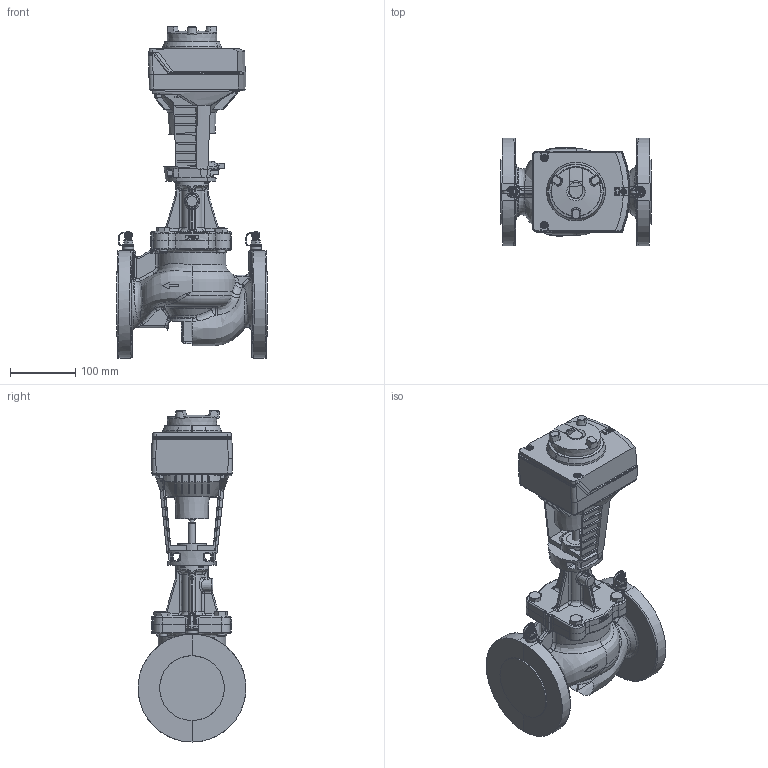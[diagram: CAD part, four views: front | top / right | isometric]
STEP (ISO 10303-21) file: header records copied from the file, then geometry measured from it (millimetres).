
FILE_DESCRIPTION((''),'2;1');
FILE_NAME('C:\Documents and Settings\jjo\Skrivebord\OPTIMA DN50 incl actuator.stp','2012-12-06T11:58:30',('JJO'),(''),'Autodesk Inventor 2012','Autodesk Inventor 2012','');
FILE_SCHEMA(('AUTOMOTIVE_DESIGN { 1 0 10303 214 1 1 1 1 }'));
Length unit declared in the file: millimetre
Products named in the file (1): 53-1200 incl actuator_Shrinkwrap_1
Bounding box: 230 x 164.65 x 507.93 mm (x, y, z)
Surface area: 590448.9 mm2 (no closed solid volume)
Topology: 0 solids, 55 shells, 3260 faces, 8526 edges, 5380 vertices
Faces by surface type: plane 1442, bspline 669, cylinder 654, cone 259, torus 170, sphere 54, revolution 12
Full cylindrical faces by diameter (mm): 2.9 x2, 3.5 x3, 3.8 x1, 5 x3, 6 x1, 7 x1, 8 x2, 8.05 x1, 8.5 x2, 9 x3, 9.728 x2, 10 x4, 10.5 x1, 11 x2, 11.5 x2, 11.7 x2, 12 x5, 12.4 x1, 13.157 x2, 15 x1, 16.04 x2, 16.63 x4, 17 x4, 18 x2, 20 x1, 21.7 x1, 22 x1, 23.7 x1, 24 x1, 29 x1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
Entity records: 139665 total; most frequent: CARTESIAN_POINT 63047, ORIENTED_EDGE 16468, DIRECTION 13728, EDGE_CURVE 8234, AXIS2_PLACEMENT_3D 5377, VERTEX_POINT 5344, EDGE_LOOP 3558, FACE_OUTER_BOUND 3259
